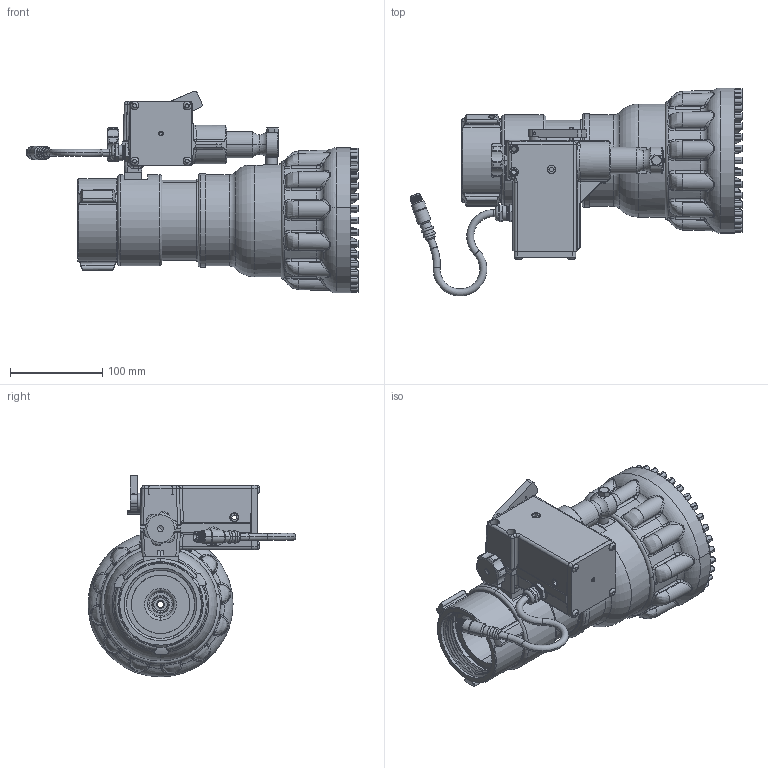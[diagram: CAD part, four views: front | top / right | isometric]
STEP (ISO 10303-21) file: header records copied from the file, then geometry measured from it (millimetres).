
FILE_DESCRIPTION (( 'STEP AP203' ), '1' );
FILE_NAME ('M-ERP1250SBJ.step', '2014-05-13T19:38:12', ( 'user' ), ( '' ), 'SwSTEP 2.0', 'SolidWorks 2012', '' );
FILE_SCHEMA (( 'CONFIG_CONTROL_DESIGN' ));
Products named in the file (1): M-ERP1250SBJ
Bounding box: 360.42 x 225.76 x 218.96 mm (x, y, z)
Surface area: 314926.7 mm2 (no closed solid volume)
Topology: 0 solids, 45 shells, 1398 faces, 4049 edges, 2615 vertices
Faces by surface type: cylinder 552, plane 416, bspline 257, torus 93, cone 63, sphere 17
Entity records: 73161 total; most frequent: CARTESIAN_POINT 40066, ORIENTED_EDGE 7402, DIRECTION 5921, EDGE_CURVE 4037, VERTEX_POINT 2607, AXIS2_PLACEMENT_3D 2233, EDGE_LOOP 1472, LINE 1455
